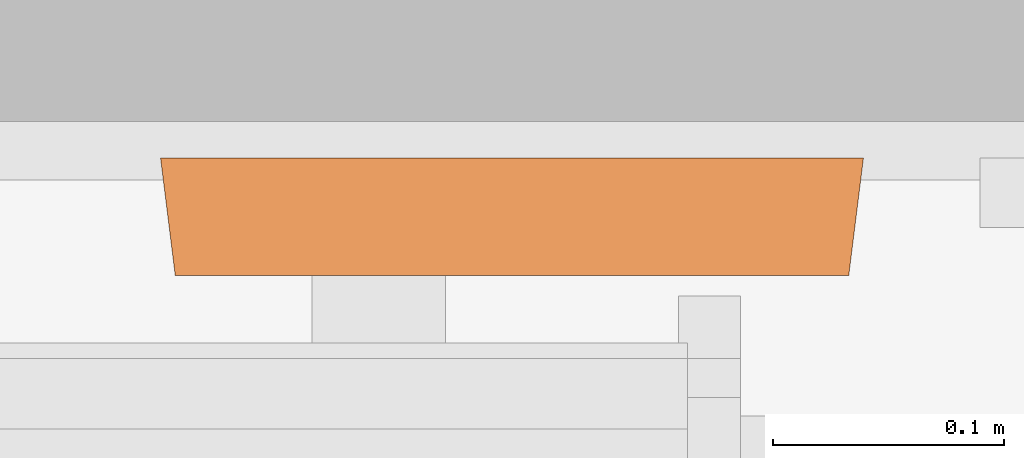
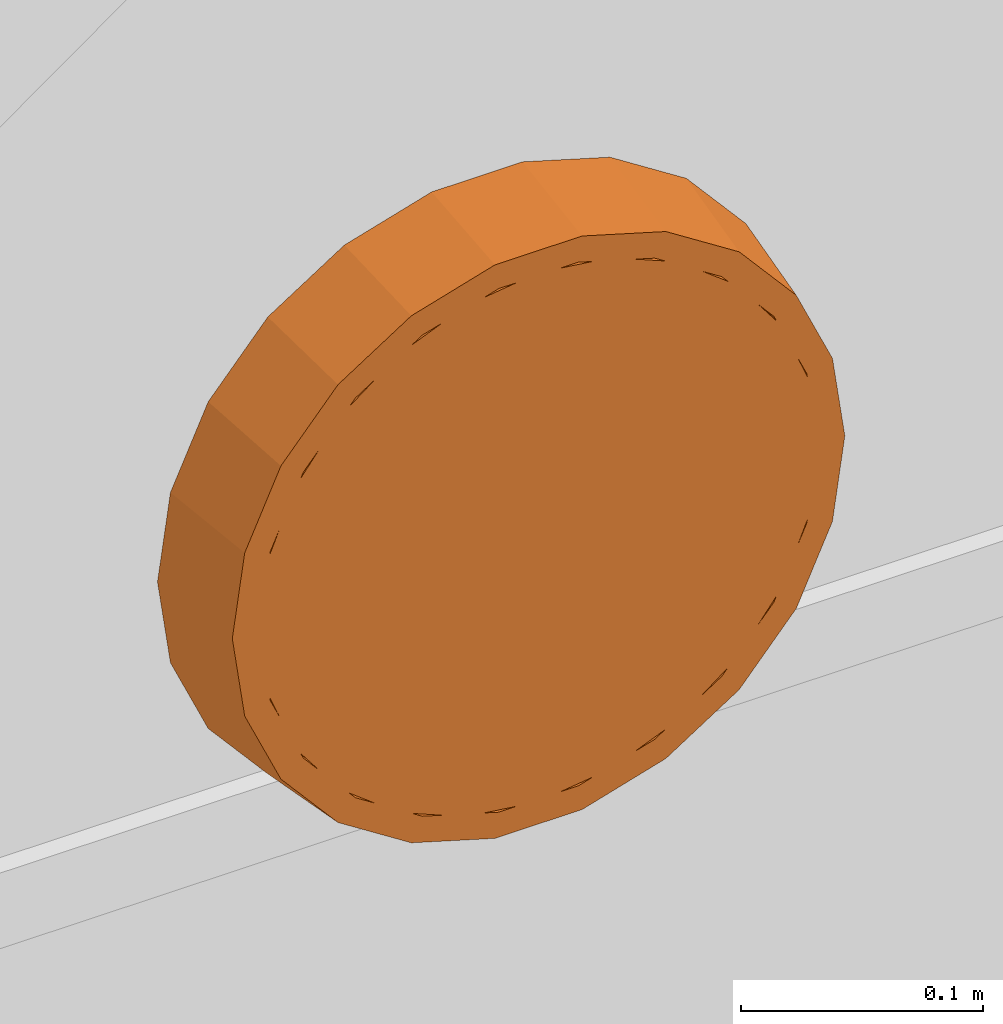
# One storey, part 124 of 142: 1 proxy.
"""IFC2X3 building model written with IfcOpenShell, lengths in feet."""

from ifc_helpers import new_model, entity, si_unit, converted_unit, derived_unit, direction, frame, origin, place, context, subcontext, project, spatial, faceted_brep, source, transform, mapped, type_object, type_shapes, element, save


model = new_model("IFC2X3")

# Units and contexts
model_context = context("Model", 3, precision=0.0001, world=origin(), true_north=direction((6.12303176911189e-17, 1.0)))
body_context = subcontext(model_context, "Body", "Model", "MODEL_VIEW")
ifc_project = project(units=[converted_unit("LENGTHUNIT", "FOOT", entity("IfcRatioMeasure", 0.3048), si_unit("LENGTHUNIT", "METRE"), dimensions=[1, 0, 0, 0, 0, 0, 0]), converted_unit("AREAUNIT", "SQUARE FOOT", entity("IfcRatioMeasure", 0.09290304), si_unit("AREAUNIT", "SQUARE_METRE"), dimensions=[2, 0, 0, 0, 0, 0, 0]), converted_unit("VOLUMEUNIT", "CUBIC FOOT", entity("IfcRatioMeasure", 0.028316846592), si_unit("VOLUMEUNIT", "CUBIC_METRE"), dimensions=[3, 0, 0, 0, 0, 0, 0]), converted_unit("PLANEANGLEUNIT", "DEGREE", entity("IfcRatioMeasure", 0.0174532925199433), si_unit("PLANEANGLEUNIT", "RADIAN"), dimensions=[0, 0, 0, 0, 0, 0, 0]), si_unit("MASSUNIT", "GRAM", prefix="KILO"), derived_unit("MASSDENSITYUNIT", [(si_unit("MASSUNIT", "GRAM", prefix="KILO"), 1), (si_unit("LENGTHUNIT", "METRE"), -3)]), si_unit("TIMEUNIT", "SECOND"), si_unit("FREQUENCYUNIT", "HERTZ"), si_unit("THERMODYNAMICTEMPERATUREUNIT", "DEGREE_CELSIUS"), derived_unit("THERMALTRANSMITTANCEUNIT", [(si_unit("MASSUNIT", "GRAM", prefix="KILO"), 1), (si_unit("THERMODYNAMICTEMPERATUREUNIT", "KELVIN"), -1), (si_unit("TIMEUNIT", "SECOND"), -3)]), derived_unit("VOLUMETRICFLOWRATEUNIT", [(si_unit("LENGTHUNIT", "METRE"), 3), (si_unit("TIMEUNIT", "SECOND"), -1)]), si_unit("ELECTRICCURRENTUNIT", "AMPERE"), si_unit("ELECTRICVOLTAGEUNIT", "VOLT"), si_unit("POWERUNIT", "WATT"), si_unit("FORCEUNIT", "NEWTON"), si_unit("ILLUMINANCEUNIT", "LUX"), si_unit("LUMINOUSFLUXUNIT", "LUMEN"), si_unit("LUMINOUSINTENSITYUNIT", "CANDELA"), derived_unit("USERDEFINED", [(si_unit("MASSUNIT", "GRAM", prefix="KILO"), -1), (si_unit("LENGTHUNIT", "METRE"), -2), (si_unit("TIMEUNIT", "SECOND"), 3), (si_unit("LUMINOUSFLUXUNIT", "LUMEN"), 1)]), derived_unit("LINEARVELOCITYUNIT", [(si_unit("LENGTHUNIT", "METRE"), 1), (si_unit("TIMEUNIT", "SECOND"), -1)]), si_unit("PRESSUREUNIT", "PASCAL"), derived_unit("USERDEFINED", [(si_unit("LENGTHUNIT", "METRE"), -2), (si_unit("MASSUNIT", "GRAM", prefix="KILO"), 1), (si_unit("TIMEUNIT", "SECOND"), -2)])], contexts=[model_context])

# Site, building, storey, space
site_placement = place(None, origin())
site = spatial("IfcSite", under=ifc_project, at=site_placement, Name="Default", CompositionType="ELEMENT")
building_placement = place(site_placement, origin())
building = spatial("IfcBuilding", under=site, at=building_placement, Name="OUTPATIENT / PACT CLINIC (Ch. 265)", CompositionType="ELEMENT")
storey_placement = place(building_placement, origin())
storey = spatial("IfcBuildingStorey", under=building, at=storey_placement, Name="LEVEL 1", CompositionType="ELEMENT", Elevation=0.0)
space_placement = place(storey_placement, origin())
space = spatial("IfcSpace", under=storey, at=space_placement, Name="EXPA01", CompositionType="ELEMENT", InteriorOrExteriorSpace="INTERNAL")

# Proxy
building_element_proxy_type = type_object("IfcBuildingElementProxyType", Name="F3200 - Clock, Battery, 12in Dia", PredefinedType="NOTDEFINED")
shared_shape = source(origin(), body_context, "Body", "Brep", [
    faceted_brep([(0.0527623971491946, -0.166666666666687, -0.0087350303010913), (0.143371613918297, -0.166666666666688, 0.0607918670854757), (0.212898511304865, -0.16666666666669, 0.151401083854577), (0.256604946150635, -0.166666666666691, 0.256917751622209), (0.271512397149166, -0.166666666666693, 0.370151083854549), (0.256604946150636, -0.166666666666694, 0.483384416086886), (0.212898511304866, -0.166666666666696, 0.588901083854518), (0.143371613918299, -0.166666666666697, 0.67951030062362), (0.052762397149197, -0.166666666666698, 0.749037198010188), (-0.0527542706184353, -0.166666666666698, 0.792743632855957), (-0.165987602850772, -0.166666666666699, 0.807651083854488), (-0.279220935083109, -0.166666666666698, 0.792743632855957), (-0.384737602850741, -0.166666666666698, 0.749037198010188), (-0.475346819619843, -0.166666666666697, 0.679510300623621), (-0.544873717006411, -0.166666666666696, 0.588901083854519), (-0.588580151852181, -0.166666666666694, 0.483384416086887), (-0.603487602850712, -0.166666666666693, 0.37015108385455), (-0.588580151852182, -0.166666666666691, 0.256917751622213), (-0.544873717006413, -0.16666666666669, 0.151401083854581), (-0.475346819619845, -0.166666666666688, 0.0607918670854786), (-0.384737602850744, -0.166666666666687, -0.0087350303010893), (-0.279220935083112, -0.166666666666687, -0.052441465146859), (-0.165987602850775, -0.166666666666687, -0.0673489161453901), (-0.0527542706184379, -0.166666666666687, -0.0524414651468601), (0.256604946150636, -0.145833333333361, 0.483384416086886), (0.271512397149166, -0.145833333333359, 0.370151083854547), (0.256604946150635, -0.145833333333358, 0.256917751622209), (0.212898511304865, -0.145833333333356, 0.151401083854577), (0.143371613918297, -0.145833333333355, 0.0607918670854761), (0.0527623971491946, -0.145833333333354, -0.00873503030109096), (-0.0527542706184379, -0.145833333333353, -0.0524414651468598), (-0.165987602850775, -0.145833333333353, -0.0673489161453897), (-0.279220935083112, -0.145833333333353, -0.0524414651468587), (-0.384737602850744, -0.145833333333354, -0.00873503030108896), (-0.475346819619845, -0.145833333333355, 0.060791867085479), (-0.544873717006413, -0.145833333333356, 0.151401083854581), (-0.588580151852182, -0.145833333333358, 0.256917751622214), (-0.603487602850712, -0.145833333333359, 0.37015108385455), (-0.588580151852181, -0.145833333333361, 0.483384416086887), (-0.544873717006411, -0.145833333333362, 0.588901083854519), (-0.475346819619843, -0.145833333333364, 0.679510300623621), (-0.384737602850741, -0.145833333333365, 0.749037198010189), (-0.279220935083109, -0.145833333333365, 0.792743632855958), (-0.165987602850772, -0.145833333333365, 0.807651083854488), (-0.0527542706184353, -0.145833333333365, 0.792743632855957), (0.052762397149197, -0.145833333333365, 0.749037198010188), (0.143371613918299, -0.145833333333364, 0.67951030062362), (0.212898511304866, -0.145833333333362, 0.588901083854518)], [[[0, 1, 2, 3, 4, 5, 6, 7, 8, 9, 10, 11, 12, 13, 14, 15, 16, 17, 18, 19, 20, 21, 22, 23]], [[24, 25, 26, 27, 28, 29, 30, 31, 32, 33, 34, 35, 36, 37, 38, 39, 40, 41, 42, 43, 44, 45, 46, 47]], [[36, 17, 16, 37]], [[35, 18, 17, 36]], [[20, 19, 34, 33]], [[35, 34, 19, 18]], [[21, 20, 33, 32]], [[22, 21, 32, 31]], [[30, 23, 22, 31]], [[29, 0, 23, 30]], [[2, 1, 28, 27]], [[29, 28, 1, 0]], [[3, 2, 27, 26]], [[4, 3, 26, 25]], [[24, 5, 4, 25]], [[47, 6, 5, 24]], [[8, 7, 46, 45]], [[47, 46, 7, 6]], [[9, 8, 45, 44]], [[10, 9, 44, 43]], [[11, 10, 43, 42]], [[12, 11, 42, 41]], [[14, 39, 38, 15]], [[15, 38, 37, 16]], [[12, 41, 40, 13]], [[40, 39, 14, 13]]]),
    faceted_brep([(-0.493417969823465, 0.0, -0.00772370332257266), (-0.586614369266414, 0.0, 0.0998306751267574), (-0.165987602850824, 0.0, 0.370151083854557), (-0.373695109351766, 0.0, -0.0846649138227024), (-0.645734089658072, 0.0, 0.229284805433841), (-0.665987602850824, 0.0, 0.370151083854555), (-0.645734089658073, 0.0, 0.51101736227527), (-0.586614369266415, 0.0, 0.640471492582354), (-0.493417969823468, 0.0, 0.748025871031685), (-0.373695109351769, 0.0, 0.824967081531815), (-0.237145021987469, 0.0, 0.865061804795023), (-0.0948301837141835, 0.0, 0.865061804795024), (0.0417199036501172, 0.0, 0.824967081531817), (0.161442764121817, 0.0, 0.748025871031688), (0.254639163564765, 0.0, 0.640471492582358), (0.313758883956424, 0.0, 0.511017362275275), (0.334012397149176, 0.0, 0.370151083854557), (0.313758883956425, 0.0, 0.229284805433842), (0.254639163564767, 0.0, 0.0998306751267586), (0.161442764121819, 0.0, -0.00772370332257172), (0.0417199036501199, 0.0, -0.0846649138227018), (-0.0948301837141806, 0.0, -0.124759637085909), (-0.237145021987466, 0.0, -0.124759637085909), (-0.165987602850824, -0.145833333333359, 0.370151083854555), (-0.534036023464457, -0.145833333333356, 0.133620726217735), (-0.452489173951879, -0.145833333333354, 0.0395106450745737), (-0.585765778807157, -0.145833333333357, 0.246893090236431), (-0.347731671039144, -0.145833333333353, -0.0278129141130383), (-0.228250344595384, -0.145833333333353, -0.0628957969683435), (-0.603487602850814, -0.145833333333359, 0.370151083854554), (-0.103724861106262, -0.145833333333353, -0.0628957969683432), (0.0157564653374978, -0.145833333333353, -0.0278129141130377), (0.120513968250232, -0.145833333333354, 0.0395106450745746), (0.20206081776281, -0.145833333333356, 0.133620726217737), (0.253790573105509, -0.145833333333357, 0.246893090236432), (0.271512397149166, -0.145833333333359, 0.370151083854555), (-0.585765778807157, -0.145833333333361, 0.493409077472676), (-0.534036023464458, -0.145833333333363, 0.606681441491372), (-0.452489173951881, -0.145833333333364, 0.700791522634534), (-0.347731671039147, -0.145833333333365, 0.768115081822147), (-0.228250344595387, -0.145833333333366, 0.803197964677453), (0.253790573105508, -0.145833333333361, 0.49340907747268), (0.202060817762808, -0.145833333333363, 0.606681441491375), (0.12051396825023, -0.145833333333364, 0.700791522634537), (0.0157564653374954, -0.145833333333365, 0.768115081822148), (-0.103724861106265, -0.145833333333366, 0.803197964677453), (0.253790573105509, -0.166666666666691, 0.246893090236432), (0.271512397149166, -0.166666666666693, 0.370151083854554), (0.20206081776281, -0.166666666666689, 0.133620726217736), (-0.103724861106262, -0.166666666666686, -0.0628957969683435), (0.0157564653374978, -0.166666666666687, -0.0278129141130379), (0.120513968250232, -0.166666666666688, 0.0395106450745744), (-0.228250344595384, -0.166666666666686, -0.0628957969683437), (-0.452489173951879, -0.166666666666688, 0.0395106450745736), (-0.347731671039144, -0.166666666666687, -0.0278129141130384), (-0.603487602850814, -0.166666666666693, 0.370151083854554), (-0.585765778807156, -0.166666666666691, 0.246893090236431), (-0.534036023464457, -0.166666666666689, 0.133620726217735), (-0.585765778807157, -0.166666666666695, 0.493409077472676), (-0.534036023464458, -0.166666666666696, 0.606681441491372), (-0.347731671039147, -0.166666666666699, 0.768115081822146), (-0.452489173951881, -0.166666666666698, 0.700791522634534), (-0.228250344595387, -0.166666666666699, 0.803197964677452), (-0.103724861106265, -0.166666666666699, 0.803197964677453), (0.0157564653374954, -0.166666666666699, 0.768115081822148), (0.12051396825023, -0.166666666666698, 0.700791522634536), (0.253790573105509, -0.166666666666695, 0.493409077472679), (0.202060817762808, -0.166666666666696, 0.606681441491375), (-0.62574465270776, -0.166666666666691, 0.235154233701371), (-0.64515426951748, -0.166666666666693, 0.370151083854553), (-0.569088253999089, -0.166666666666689, 0.111094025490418), (-0.479775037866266, -0.166666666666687, 0.00802107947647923), (-0.365040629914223, -0.166666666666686, -0.0657142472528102), (-0.234180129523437, -0.166666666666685, -0.104138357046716), (-0.0977950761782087, -0.166666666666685, -0.104138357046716), (0.0330654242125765, -0.166666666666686, -0.0657142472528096), (0.147799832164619, -0.166666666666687, 0.00802107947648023), (0.237113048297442, -0.166666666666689, 0.11109402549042), (0.293769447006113, -0.166666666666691, 0.235154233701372), (0.313179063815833, -0.166666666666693, 0.370151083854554), (0.293769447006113, -0.166666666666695, 0.50514793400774), (0.237113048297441, -0.166666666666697, 0.629208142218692), (0.147799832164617, -0.166666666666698, 0.732281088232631), (0.0330654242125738, -0.1666666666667, 0.80601641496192), (-0.0977950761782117, -0.1666666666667, 0.844440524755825), (-0.23418012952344, -0.1666666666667, 0.844440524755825), (-0.365040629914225, -0.1666666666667, 0.806016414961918), (-0.479775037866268, -0.166666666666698, 0.732281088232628), (-0.569088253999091, -0.166666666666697, 0.629208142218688), (-0.625744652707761, -0.166666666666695, 0.505147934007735)], [[[0, 1, 2]], [[0, 2, 3]], [[4, 2, 1]], [[2, 4, 5]], [[5, 6, 2]], [[2, 6, 7]], [[2, 7, 8]], [[2, 8, 9]], [[9, 10, 2]], [[11, 2, 10]], [[2, 11, 12]], [[2, 12, 13]], [[14, 2, 13]], [[2, 14, 15]], [[15, 16, 2]], [[2, 16, 17]], [[2, 17, 18]], [[18, 19, 2]], [[19, 20, 2]], [[21, 2, 20]], [[2, 21, 22]], [[22, 3, 2]], [[23, 24, 25]], [[24, 23, 26]], [[27, 23, 25]], [[23, 27, 28]], [[29, 26, 23]], [[28, 30, 23]], [[31, 23, 30]], [[23, 31, 32]], [[23, 32, 33]], [[33, 34, 23]], [[34, 35, 23]], [[23, 36, 29]], [[37, 36, 23]], [[38, 37, 23]], [[39, 38, 23]], [[23, 40, 39]], [[23, 35, 41]], [[41, 42, 23]], [[43, 23, 42]], [[43, 44, 23]], [[44, 45, 23]], [[40, 23, 45]], [[46, 47, 35, 34]], [[46, 34, 33, 48]], [[31, 30, 49, 50]], [[32, 31, 50, 51]], [[51, 48, 33, 32]], [[30, 28, 52, 49]], [[27, 25, 53, 54]], [[28, 27, 54, 52]], [[29, 55, 56, 26]], [[26, 56, 57, 24]], [[24, 57, 53, 25]], [[55, 29, 36, 58]], [[58, 36, 37, 59]], [[60, 61, 38, 39]], [[59, 37, 38, 61]], [[39, 40, 62, 60]], [[40, 45, 63, 62]], [[64, 63, 45, 44]], [[64, 44, 43, 65]], [[41, 35, 47, 66]], [[42, 41, 66, 67]], [[67, 65, 43, 42]], [[68, 55, 69]], [[56, 55, 68]], [[68, 70, 56]], [[70, 57, 56]], [[71, 57, 70]], [[57, 71, 53]], [[72, 53, 71]], [[54, 53, 72]], [[72, 73, 54]], [[73, 52, 54]], [[49, 52, 73]], [[73, 74, 49]], [[74, 50, 49]], [[75, 50, 74]], [[50, 75, 51]], [[76, 51, 75]], [[48, 51, 76]], [[76, 77, 48]], [[77, 46, 48]], [[78, 46, 77]], [[46, 78, 47]], [[78, 79, 47]], [[79, 80, 47]], [[66, 47, 80]], [[80, 81, 66]], [[66, 81, 67]], [[82, 67, 81]], [[67, 82, 65]], [[65, 82, 83]], [[64, 65, 83]], [[83, 84, 64]], [[64, 84, 63]], [[85, 63, 84]], [[63, 85, 62]], [[62, 85, 60]], [[86, 60, 85]], [[60, 86, 61]], [[61, 86, 87]], [[59, 61, 87]], [[87, 88, 59]], [[59, 88, 58]], [[89, 58, 88]], [[55, 89, 69]], [[58, 89, 55]], [[78, 17, 16, 79]], [[77, 18, 17, 78]], [[19, 76, 75, 20]], [[77, 76, 19, 18]], [[20, 75, 74, 21]], [[74, 73, 22, 21]], [[22, 73, 72, 3]], [[0, 3, 72, 71]], [[4, 1, 70, 68]], [[70, 1, 0, 71]], [[5, 4, 68, 69]], [[89, 6, 5, 69]], [[88, 7, 6, 89]], [[8, 87, 86, 9]], [[88, 87, 8, 7]], [[9, 86, 85, 10]], [[85, 84, 11, 10]], [[83, 12, 11, 84]], [[82, 13, 12, 83]], [[14, 81, 80, 15]], [[82, 81, 14, 13]], [[15, 80, 79, 16]]]),
])
type_shapes(building_element_proxy_type, [shared_shape])
proxy_placement = place(space_placement, frame((397.489351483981, -887.024686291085, 6.50000000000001)))
element("IfcBuildingElementProxy", 1, at=proxy_placement, inside=space, type_object=building_element_proxy_type, Name="F3200 - Clock, Battery, 12in Dia:F3200 - Clock, Battery, 12in Dia", ObjectType="F3200 - Clock, Battery, 12in Dia", context=body_context, shape_type="MappedRepresentation", body=[
    mapped(shared_shape, transform((0.0, 0.0, 0.0), scale=1.0)),
])

save(model, "model.ifc")
